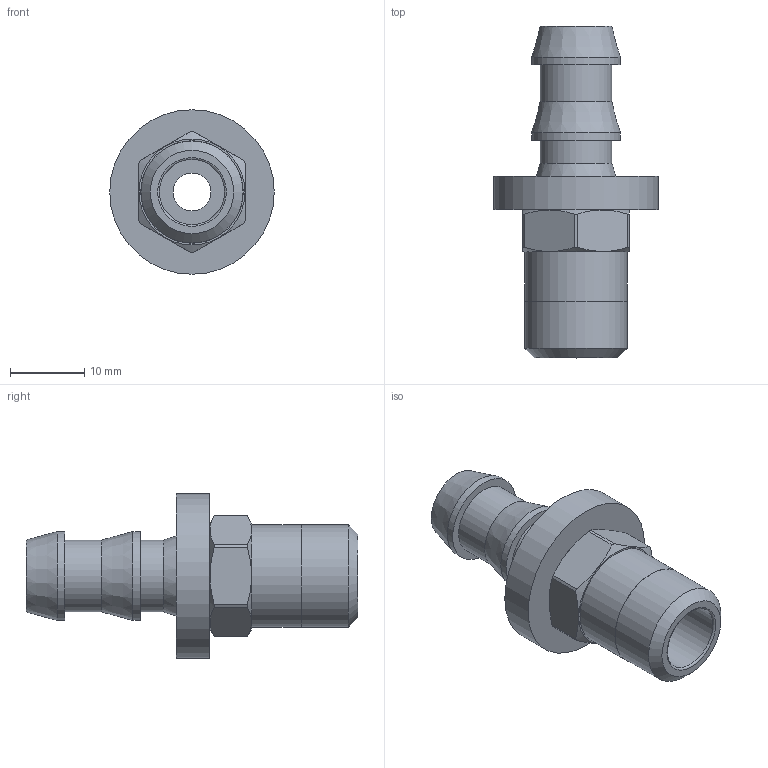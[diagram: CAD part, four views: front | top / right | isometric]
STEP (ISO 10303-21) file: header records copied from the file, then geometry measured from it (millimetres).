
FILE_DESCRIPTION(/* description */ (''),/* implementation_level */ '2;1');
FILE_NAME(/* name */ 'C:/Users/drich/Desktop/PLM-06-04 v2.step',/* time_stamp */ '2020-02-02T14:45:37-06:00',/* author */ (''),/* organization */ (''),/* preprocessor_version */ 'ST-DEVELOPER v18',/* originating_system */ 'Autodesk Translation Framework v8.12.0.6',/* authorisation */ '');
FILE_SCHEMA (('AUTOMOTIVE_DESIGN { 1 0 10303 214 3 1 1 }'));
Length unit declared in the file: inch
Products named in the file (4): PLM-06-04; -06 BARB ONLY; 14 -04 THREAD; FW-8
Assembly tree (3 placements, depth 2):
  PLM-06-04
    -06 BARB ONLY
    14 -04 THREAD
    FW-8
Bounding box: 22.1 x 44.58 x 22.1 mm (x, y, z)
Volume: 4003.1 mm3; surface area: 4276.5 mm2
Topology: 3 solids, 3 shells, 47 faces, 124 edges, 90 vertices
Faces by surface type: cylinder 20, plane 19, cone 7, torus 1
Full cylindrical faces by diameter (mm): 5.08 x1, 6.731 x1, 8.738 x1, 9.652 x2, 10.312 x1, 11.684 x1, 11.938 x3, 13.716 x1, 13.767 x1, 19.558 x1, 22.098 x1
Entity records: 1666 total; most frequent: DIRECTION 299, CARTESIAN_POINT 292, ORIENTED_EDGE 248, AXIS2_PLACEMENT_3D 133, EDGE_CURVE 124, VERTEX_POINT 90, CIRCLE 79, EDGE_LOOP 60
